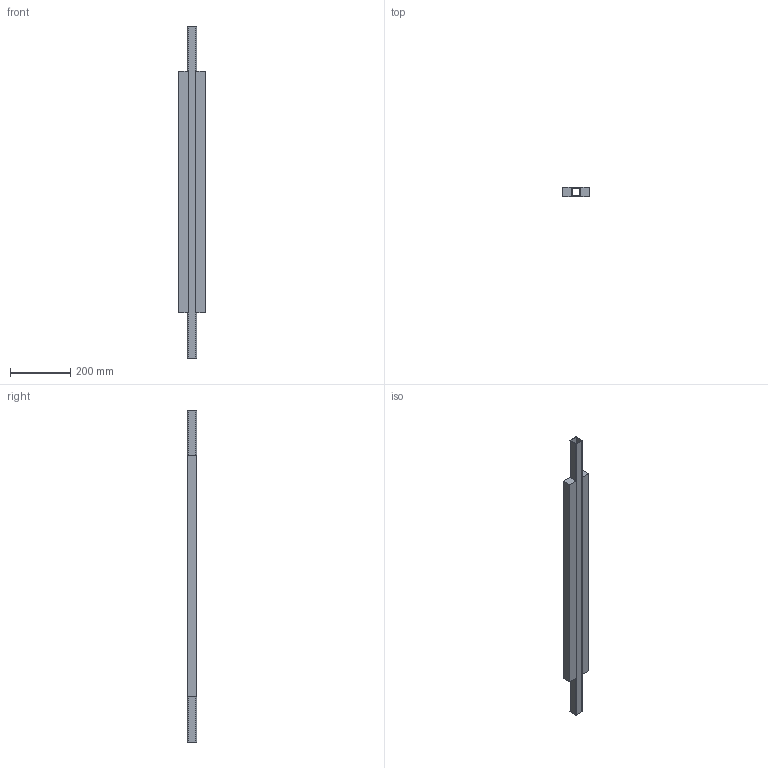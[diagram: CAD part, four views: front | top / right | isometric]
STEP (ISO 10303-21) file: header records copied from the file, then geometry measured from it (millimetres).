
FILE_DESCRIPTION (( 'STEP AP214' ), '1' );
FILE_NAME ('0006642_0_00.step', '2018-07-12T10:08:47', ( '' ), ( '' ), 'SwSTEP 2.0', 'SolidWorks 2018', '' );
FILE_SCHEMA (( 'AUTOMOTIVE_DESIGN' ));
Length unit declared in the file: millimetre
Products named in the file (3): 0006642_0_01_2 lame L=800; 0006642_0_02_2 lame L=800; 0006642_0_00
Assembly tree (2 placements, depth 2):
  0006642_0_00
    0006642_0_01_2 lame L=800
    0006642_0_02_2 lame L=800
Bounding box: 90 x 30 x 1100 mm (x, y, z)
Volume: 1794082.3 mm3; surface area: 443262.2 mm2
Topology: 3 solids, 3 shells, 30 faces, 72 edges, 48 vertices
Faces by surface type: plane 22, cylinder 8
Entity records: 1149 total; most frequent: DIRECTION 158, CARTESIAN_POINT 155, ORIENTED_EDGE 144, EDGE_CURVE 72, LINE 56, VECTOR 56, AXIS2_PLACEMENT_3D 51, VERTEX_POINT 48
